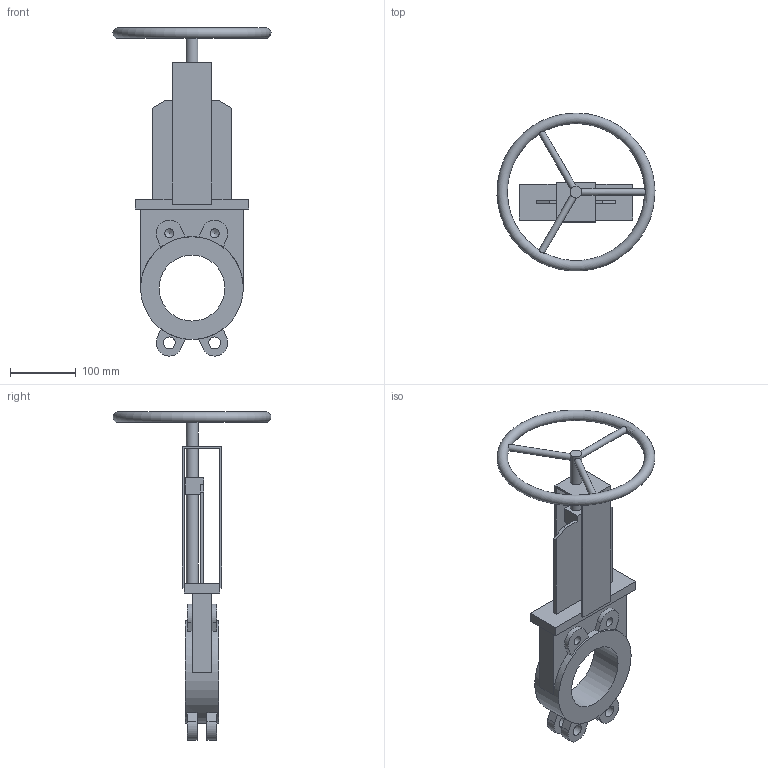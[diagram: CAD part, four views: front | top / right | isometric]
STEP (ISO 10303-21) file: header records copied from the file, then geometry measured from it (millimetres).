
FILE_DESCRIPTION(('STEP AP203'), '1');
FILE_NAME('Çàäâèæêà øèáåðíàÿ ìåæôëàíöåâàÿ K51GV DN100', '', ('UNSPECIFIED'), ('UNSPECIFIED'), 'ASCON STEP Converter 1.6', 'ASCON Math Kernel', '');
FILE_SCHEMA(('CONFIG_CONTROL_DESIGN'));
Length unit declared in the file: millimetre
Bounding box: 239.89 x 239.73 x 498.13 mm (x, y, z)
Volume: 1485977.1 mm3; surface area: 275647.1 mm2
Topology: 1 solids, 1 shells, 93 faces, 252 edges, 165 vertices
Faces by surface type: plane 64, cylinder 24, cone 4, torus 1
Full cylindrical faces by diameter (mm): 10 x3, 13.835 x4, 18 x7, 100 x1, 156 x1
Entity records: 4748 total; most frequent: CARTESIAN_POINT 1664, DIRECTION 466, ORIENTED_EDGE 448, EDGE_CURVE 224, VERTEX_POINT 160, AXIS2_PLACEMENT_3D 156, LINE 154, VECTOR 154
